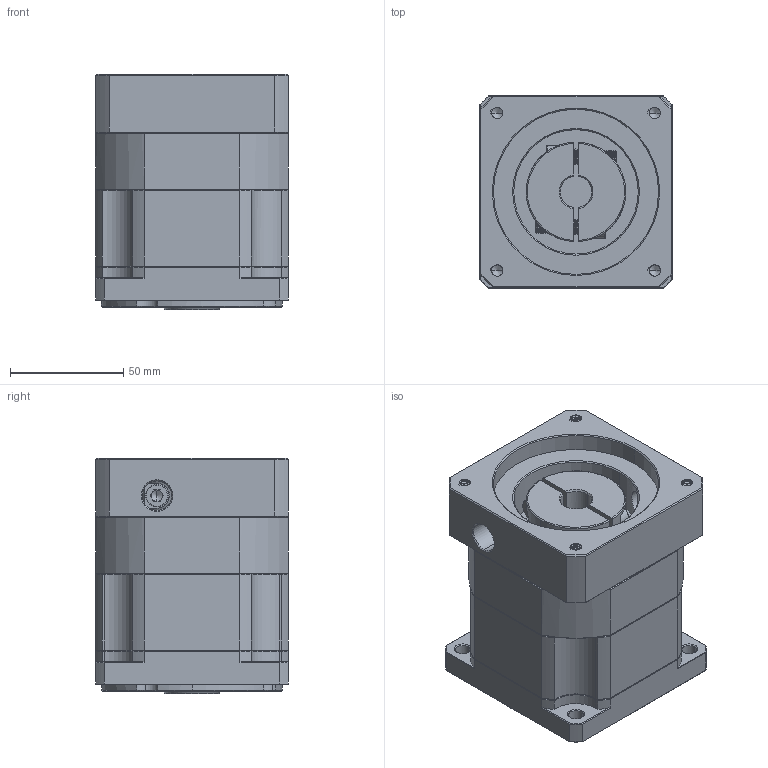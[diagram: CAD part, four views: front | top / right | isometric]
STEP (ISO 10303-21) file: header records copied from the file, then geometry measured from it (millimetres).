
FILE_DESCRIPTION (( 'STEP AP214' ), '1' );
FILE_NAME ('ZB090-K15-L1-P2-14-73-69.6X69.6-M6.step', '2023-08-18T12:16:35', ( '' ), ( '' ), 'SwSTEP 2.0', 'SolidWorks 2016', '' );
FILE_SCHEMA (( 'AUTOMOTIVE_DESIGN' ));
Length unit declared in the file: millimetre
Products named in the file (1): ZB090-K15-L1-P2-14-73-69.6X69.6-M6
Bounding box: 85 x 85 x 104 mm (x, y, z)
Volume: 589308.6 mm3; surface area: 84737.5 mm2
Topology: 4 solids, 5 shells, 2160 faces, 5737 edges, 3661 vertices
Faces by surface type: plane 1059, bspline 390, cylinder 358, cone 328, torus 25
Entity records: 114919 total; most frequent: CARTESIAN_POINT 40657, ORIENTED_EDGE 11434, DIRECTION 8984, EDGE_CURVE 5717, VECTOR 3668, LINE 3668, VERTEX_POINT 3661, AXIS2_PLACEMENT_3D 2658
